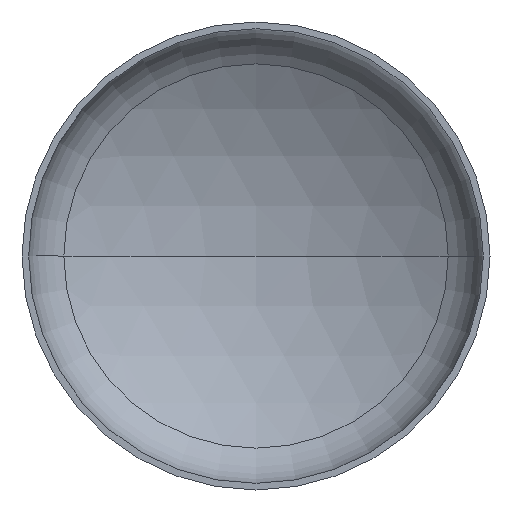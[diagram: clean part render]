
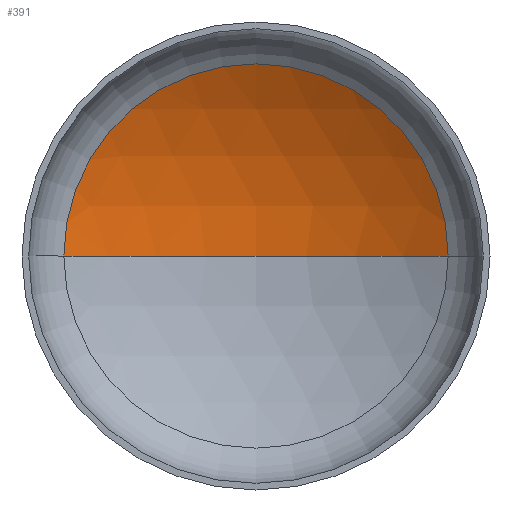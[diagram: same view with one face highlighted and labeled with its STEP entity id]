
A CAD part, front view. The second image highlights one B-rep face of the part: STEP entity #391.
In plain terms, the highlighted spherical face has radius 5600 mm.
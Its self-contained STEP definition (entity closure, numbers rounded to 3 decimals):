
#2 = CARTESIAN_POINT ( 'NONE',  ( -2874.336, 1026.883, 0. ) ) ;
#24 = ORIENTED_EDGE ( 'NONE', *, *, #94, .F. ) ;
#36 = CARTESIAN_POINT ( 'NONE',  ( 2874.336, 1026.883, 0. ) ) ;
#45 = AXIS2_PLACEMENT_3D ( 'NONE', #186, #163, #160 ) ;
#48 = AXIS2_PLACEMENT_3D ( 'NONE', #283, #281, #132 ) ;
#51 = AXIS2_PLACEMENT_3D ( 'NONE', #293, #307, #305 ) ;
#61 = DIRECTION ( 'NONE',  ( 0., 0., -1. ) ) ;
#63 = VERTEX_POINT ( 'NONE', #36 ) ;
#86 = EDGE_CURVE ( 'NONE', #63, #125, #247, .T. ) ;
#89 = EDGE_CURVE ( 'NONE', #213, #63, #147, .T. ) ;
#94 = EDGE_CURVE ( 'NONE', #213, #125, #304, .T. ) ;
#125 = VERTEX_POINT ( 'NONE', #2 ) ;
#132 = DIRECTION ( 'NONE',  ( -1., 0., 0. ) ) ;
#147 = CIRCLE ( 'NONE', #48, 5600. ) ;
#160 = DIRECTION ( 'NONE',  ( 1., 0., 0. ) ) ;
#163 = DIRECTION ( 'NONE',  ( 0., 0., 1. ) ) ;
#186 = CARTESIAN_POINT ( 'NONE',  ( 0., -3779.175, 0. ) ) ;
#201 = ORIENTED_EDGE ( 'NONE', *, *, #86, .T. ) ;
#211 = EDGE_LOOP ( 'NONE', ( #24, #217, #201 ) ) ;
#213 = VERTEX_POINT ( 'NONE', #233 ) ;
#217 = ORIENTED_EDGE ( 'NONE', *, *, #89, .T. ) ;
#233 = CARTESIAN_POINT ( 'NONE',  ( 0., 1820.825, 0. ) ) ;
#247 = CIRCLE ( 'NONE', #51, 2874.336 ) ;
#258 = AXIS2_PLACEMENT_3D ( 'NONE', #300, #61, #349 ) ;
#281 = DIRECTION ( 'NONE',  ( 0., 0., -1. ) ) ;
#283 = CARTESIAN_POINT ( 'NONE',  ( 0., -3779.175, 0. ) ) ;
#293 = CARTESIAN_POINT ( 'NONE',  ( 0., 1026.883, 0. ) ) ;
#300 = CARTESIAN_POINT ( 'NONE',  ( 0., -3779.175, 0. ) ) ;
#304 = CIRCLE ( 'NONE', #45, 5600. ) ;
#305 = DIRECTION ( 'NONE',  ( 1., 0., 0. ) ) ;
#307 = DIRECTION ( 'NONE',  ( 0., -1., 0. ) ) ;
#315 = SPHERICAL_SURFACE ( 'NONE', #258, 5600. ) ;
#349 = DIRECTION ( 'NONE',  ( -1., 0., 0. ) ) ;
#373 = FACE_OUTER_BOUND ( 'NONE', #211, .T. ) ;
#391 = ADVANCED_FACE ( 'NONE', ( #373 ), #315, .F. ) ;
